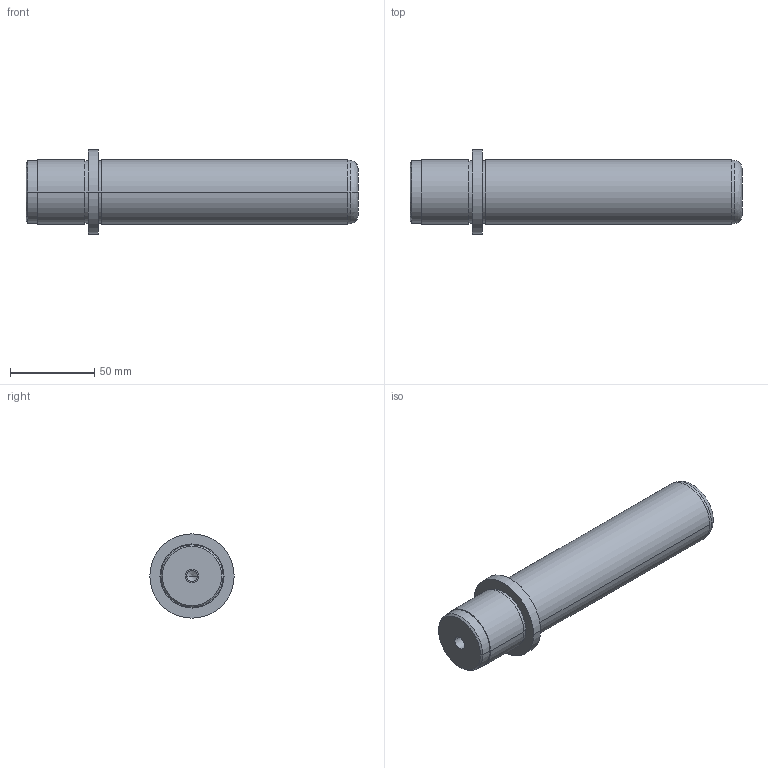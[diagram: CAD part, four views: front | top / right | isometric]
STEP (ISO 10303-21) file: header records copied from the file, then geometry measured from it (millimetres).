
FILE_DESCRIPTION( ( 'STEP AP203' ), '1' );
FILE_NAME( 'D:/Delta 3 D/D00/D00 - 38x160x37.step', '2003-01-02T07:07:34', ( ' ' ), ( ' ' ), 'XStep 1.0', ' ', ' ' );
FILE_SCHEMA( ( 'CONFIG_CONTROL_DESIGN' ) );
Length unit declared in the file: metre
Products named in the file (1): 1
Bounding box: 197 x 50 x 50 mm (x, y, z)
Volume: 224796.7 mm3; surface area: 28688.4 mm2
Topology: 1 solids, 1 shells, 39 faces, 78 edges, 48 vertices
Faces by surface type: revolution 28, bspline 11
Entity records: 1137 total; most frequent: CARTESIAN_POINT 277, DIRECTION 154, ORIENTED_EDGE 152, EDGE_CURVE 76, AXIS2_PLACEMENT_3D 49, EDGE_LOOP 48, VERTEX_POINT 48, CIRCLE 48
